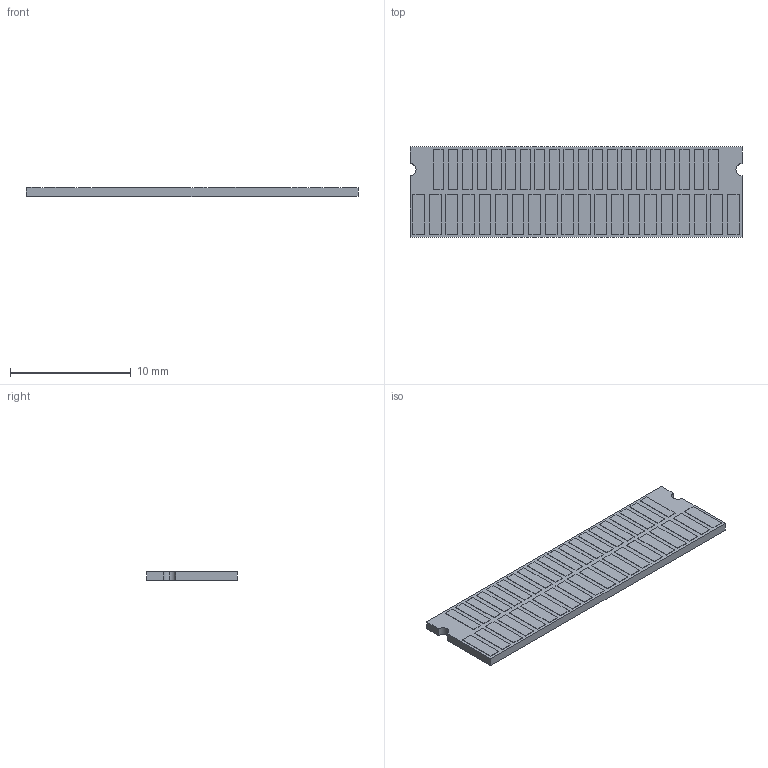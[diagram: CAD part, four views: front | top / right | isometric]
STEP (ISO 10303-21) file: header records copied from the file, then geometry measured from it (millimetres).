
FILE_DESCRIPTION (( 'STEP AP214' ), '1' );
FILE_NAME ('010462-MT063A_LZ20T2abs_8_7.STEP', '2021-12-23T09:06:00', ( '' ), ( '' ), 'SwSTEP 2.0', 'SolidWorks 2018', '' );
FILE_SCHEMA (( 'AUTOMOTIVE_DESIGN' ));
Length unit declared in the file: millimetre
Products named in the file (1): 010462-MT063A_LZ20T2abs_8_7
Bounding box: 27.5 x 7.5 x 0.77 mm (x, y, z)
Volume: 154.7 mm3; surface area: 474.9 mm2
Topology: 1 solids, 1 shells, 221 faces, 534 edges, 356 vertices
Faces by surface type: plane 215, cylinder 6
Entity records: 8235 total; most frequent: CARTESIAN_POINT 1112, ORIENTED_EDGE 1068, DIRECTION 990, EDGE_CURVE 534, LINE 522, VECTOR 522, VERTEX_POINT 356, EDGE_LOOP 262
